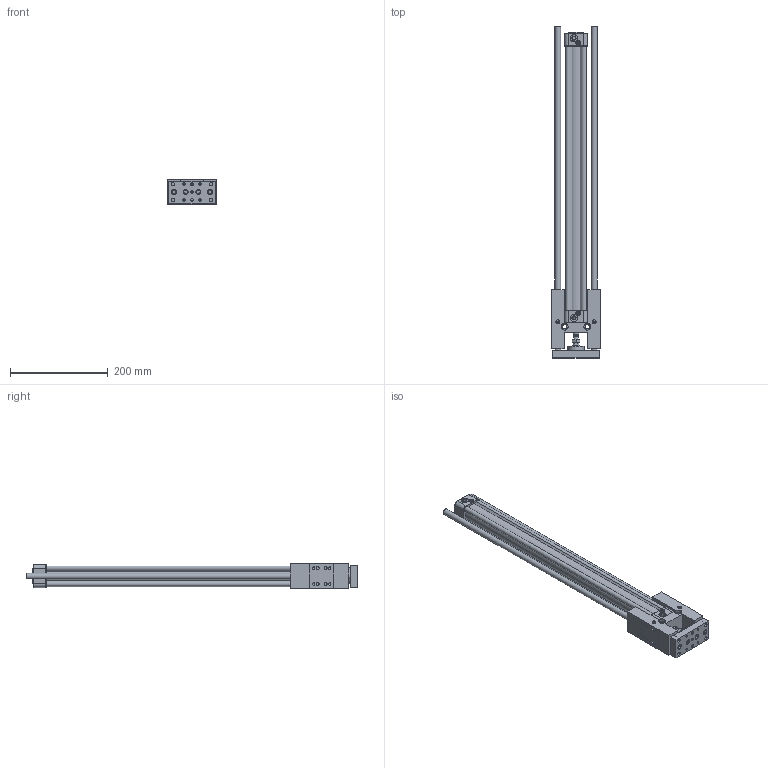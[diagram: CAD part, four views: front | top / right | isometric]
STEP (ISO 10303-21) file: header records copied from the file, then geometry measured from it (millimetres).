
FILE_DESCRIPTION((''),'2;1');
FILE_NAME('I:\3D電子目錄\氣缸\GHB(U)\GHB(U)\GHB(U)32\GHB(U)32x500.stp','2007-10-19T10:44:49',('Administrator'),(''),'Autodesk Inventor 11','Autodesk Inventor 11','');
FILE_SCHEMA(('AUTOMOTIVE_DESIGN { 1 0 10303 214 1 1 1 1 }'));
Length unit declared in the file: millimetre
Products named in the file (1): GHB(U)32
Bounding box: 99 x 679 x 50.2 mm (x, y, z)
Volume: 1028062.8 mm3; surface area: 341603.5 mm2
Topology: 17 solids, 17 shells, 738 faces, 1598 edges, 986 vertices
Faces by surface type: plane 291, bspline 199, cylinder 159, cone 80, torus 9
Full cylindrical faces by diameter (mm): 2.6 x2, 4.9 x2, 4.917 x4, 5 x5, 5.5 x10, 6 x11, 6.5 x8, 7.5 x1, 7.8 x4, 7.9 x3, 8 x5, 9 x8, 10 x7, 10.2 x8, 12 x4, 13 x1, 14 x1, 15 x2, 17 x2, 30 x1, 32 x1, 33 x1
Entity records: 20771 total; most frequent: CARTESIAN_POINT 6160, DIRECTION 2934, ORIENTED_EDGE 2754, EDGE_CURVE 1377, AXIS2_PLACEMENT_3D 1157, EDGE_LOOP 1056, VERTEX_POINT 953, FACE_OUTER_BOUND 738
